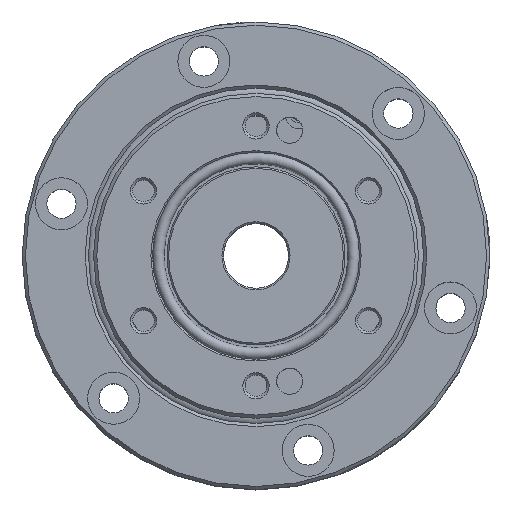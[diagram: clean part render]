
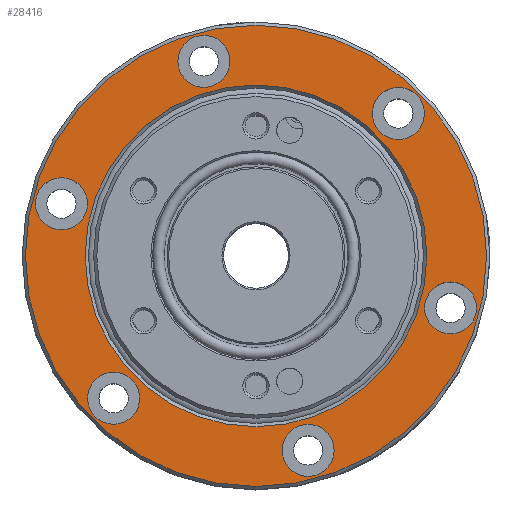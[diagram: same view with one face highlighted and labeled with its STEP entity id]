
A CAD part, top view. The second image highlights one B-rep face of the part: STEP entity #28416.
In plain terms, the highlighted planar face has unit normal (0, 0, 1).
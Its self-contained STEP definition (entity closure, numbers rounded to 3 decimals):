
#190 = VERTEX_POINT ( 'NONE', #11389 ) ;
#1091 = ORIENTED_EDGE ( 'NONE', *, *, #3289, .T. ) ;
#1195 = CARTESIAN_POINT ( 'NONE',  ( -33.408, 6.023, 27. ) ) ;
#2416 = FACE_BOUND ( 'NONE', #25659, .T. ) ;
#2777 = DIRECTION ( 'NONE',  ( 0., 0., -1. ) ) ;
#2837 = EDGE_LOOP ( 'NONE', ( #1091 ) ) ;
#3163 = ORIENTED_EDGE ( 'NONE', *, *, #29290, .T. ) ;
#3289 = EDGE_CURVE ( 'NONE', #30561, #30561, #4629, .T. ) ;
#3555 = VERTEX_POINT ( 'NONE', #28934 ) ;
#3653 = DIRECTION ( 'NONE',  ( 0., 0., -1. ) ) ;
#4629 = CIRCLE ( 'NONE', #20438, 4. ) ;
#4914 = EDGE_LOOP ( 'NONE', ( #12983 ) ) ;
#5158 = EDGE_LOOP ( 'NONE', ( #28486 ) ) ;
#5266 = CIRCLE ( 'NONE', #25826, 4. ) ;
#6337 = CARTESIAN_POINT ( 'NONE',  ( 21.92, 21.92, 27. ) ) ;
#7249 = CARTESIAN_POINT ( 'NONE',  ( 29.944, -8.023, 27. ) ) ;
#7297 = EDGE_CURVE ( 'NONE', #9230, #9230, #13631, .T. ) ;
#7357 = FACE_BOUND ( 'NONE', #4914, .T. ) ;
#7707 = CARTESIAN_POINT ( 'NONE',  ( 0., 0., 27. ) ) ;
#8432 = VERTEX_POINT ( 'NONE', #30839 ) ;
#8486 = DIRECTION ( 'NONE',  ( -0.866, -0.5, 0. ) ) ;
#9230 = VERTEX_POINT ( 'NONE', #19886 ) ;
#9331 = CARTESIAN_POINT ( 'NONE',  ( -8.023, 29.944, 27. ) ) ;
#9892 = CARTESIAN_POINT ( 'NONE',  ( 18.456, 19.92, 27. ) ) ;
#9966 = ORIENTED_EDGE ( 'NONE', *, *, #28167, .T. ) ;
#10474 = FACE_OUTER_BOUND ( 'NONE', #25626, .T. ) ;
#10551 = AXIS2_PLACEMENT_3D ( 'NONE', #17694, #23207, #34580 ) ;
#10660 = EDGE_CURVE ( 'NONE', #3555, #3555, #29927, .T. ) ;
#11017 = VERTEX_POINT ( 'NONE', #36339 ) ;
#11389 = CARTESIAN_POINT ( 'NONE',  ( -22.776, -13.15, 27. ) ) ;
#11944 = CIRCLE ( 'NONE', #26040, 4. ) ;
#12554 = DIRECTION ( 'NONE',  ( 0., 0., -1. ) ) ;
#12586 = DIRECTION ( 'NONE',  ( -0.866, -0.5, 0. ) ) ;
#12983 = ORIENTED_EDGE ( 'NONE', *, *, #26588, .T. ) ;
#13631 = CIRCLE ( 'NONE', #15445, 4. ) ;
#14319 = DIRECTION ( 'NONE',  ( -0.866, -0.5, 0. ) ) ;
#14587 = DIRECTION ( 'NONE',  ( -0.866, -0.5, 0. ) ) ;
#15445 = AXIS2_PLACEMENT_3D ( 'NONE', #20036, #25050, #8486 ) ;
#15645 = DIRECTION ( 'NONE',  ( 0., 0., 1. ) ) ;
#16455 = EDGE_CURVE ( 'NONE', #19070, #19070, #21407, .T. ) ;
#16929 = EDGE_LOOP ( 'NONE', ( #28342 ) ) ;
#17694 = CARTESIAN_POINT ( 'NONE',  ( 0., 0., 27. ) ) ;
#17884 = AXIS2_PLACEMENT_3D ( 'NONE', #25185, #2777, #28328 ) ;
#18053 = DIRECTION ( 'NONE',  ( 0.5, -0.866, 0. ) ) ;
#18517 = FACE_BOUND ( 'NONE', #16929, .T. ) ;
#18601 = DIRECTION ( 'NONE',  ( 0., 0., -1. ) ) ;
#19070 = VERTEX_POINT ( 'NONE', #1195 ) ;
#19072 = FACE_BOUND ( 'NONE', #34552, .T. ) ;
#19331 = CARTESIAN_POINT ( 'NONE',  ( -11.487, 27.944, 27. ) ) ;
#19886 = CARTESIAN_POINT ( 'NONE',  ( -25.384, -23.92, 27. ) ) ;
#20036 = CARTESIAN_POINT ( 'NONE',  ( -21.92, -21.92, 27. ) ) ;
#20438 = AXIS2_PLACEMENT_3D ( 'NONE', #9331, #3653, #14319 ) ;
#21407 = CIRCLE ( 'NONE', #17884, 4. ) ;
#21483 = PLANE ( 'NONE',  #31905 ) ;
#22857 = CARTESIAN_POINT ( 'NONE',  ( 0., 0., 27. ) ) ;
#23207 = DIRECTION ( 'NONE',  ( 0., 0., 1. ) ) ;
#23777 = DIRECTION ( 'NONE',  ( 0., 0., -1. ) ) ;
#24067 = FACE_BOUND ( 'NONE', #2837, .T. ) ;
#24266 = FACE_BOUND ( 'NONE', #5158, .T. ) ;
#25050 = DIRECTION ( 'NONE',  ( 0., 0., -1. ) ) ;
#25185 = CARTESIAN_POINT ( 'NONE',  ( -29.944, 8.023, 27. ) ) ;
#25527 = AXIS2_PLACEMENT_3D ( 'NONE', #22857, #25657, #14587 ) ;
#25626 = EDGE_LOOP ( 'NONE', ( #32735 ) ) ;
#25657 = DIRECTION ( 'NONE',  ( 0., 0., -1. ) ) ;
#25659 = EDGE_LOOP ( 'NONE', ( #9966 ) ) ;
#25826 = AXIS2_PLACEMENT_3D ( 'NONE', #32393, #12554, #33288 ) ;
#26040 = AXIS2_PLACEMENT_3D ( 'NONE', #7249, #18601, #12586 ) ;
#26588 = EDGE_CURVE ( 'NONE', #11017, #11017, #11944, .T. ) ;
#27446 = AXIS2_PLACEMENT_3D ( 'NONE', #6337, #23777, #29501 ) ;
#27883 = CIRCLE ( 'NONE', #25527, 26.3 ) ;
#28167 = EDGE_CURVE ( 'NONE', #8432, #8432, #5266, .T. ) ;
#28328 = DIRECTION ( 'NONE',  ( -0.866, -0.5, 0. ) ) ;
#28342 = ORIENTED_EDGE ( 'NONE', *, *, #30744, .T. ) ;
#28416 = ADVANCED_FACE ( 'NONE', ( #24067, #35786, #7357, #18517, #2416, #24266, #19072, #10474 ), #21483, .T. ) ;
#28486 = ORIENTED_EDGE ( 'NONE', *, *, #16455, .T. ) ;
#28934 = CARTESIAN_POINT ( 'NONE',  ( -30.744, -17.75, 27. ) ) ;
#29290 = EDGE_CURVE ( 'NONE', #190, #190, #27883, .T. ) ;
#29375 = VERTEX_POINT ( 'NONE', #9892 ) ;
#29501 = DIRECTION ( 'NONE',  ( -0.866, -0.5, 0. ) ) ;
#29927 = CIRCLE ( 'NONE', #10551, 35.5 ) ;
#30561 = VERTEX_POINT ( 'NONE', #19331 ) ;
#30744 = EDGE_CURVE ( 'NONE', #29375, #29375, #31509, .T. ) ;
#30839 = CARTESIAN_POINT ( 'NONE',  ( 4.559, -31.944, 27. ) ) ;
#31509 = CIRCLE ( 'NONE', #27446, 4. ) ;
#31696 = EDGE_LOOP ( 'NONE', ( #35245 ) ) ;
#31905 = AXIS2_PLACEMENT_3D ( 'NONE', #7707, #15645, #18053 ) ;
#32393 = CARTESIAN_POINT ( 'NONE',  ( 8.023, -29.944, 27. ) ) ;
#32735 = ORIENTED_EDGE ( 'NONE', *, *, #10660, .T. ) ;
#33288 = DIRECTION ( 'NONE',  ( -0.866, -0.5, 0. ) ) ;
#34552 = EDGE_LOOP ( 'NONE', ( #3163 ) ) ;
#34580 = DIRECTION ( 'NONE',  ( -0.866, -0.5, 0. ) ) ;
#35245 = ORIENTED_EDGE ( 'NONE', *, *, #7297, .T. ) ;
#35786 = FACE_BOUND ( 'NONE', #31696, .T. ) ;
#36339 = CARTESIAN_POINT ( 'NONE',  ( 26.48, -10.023, 27. ) ) ;
